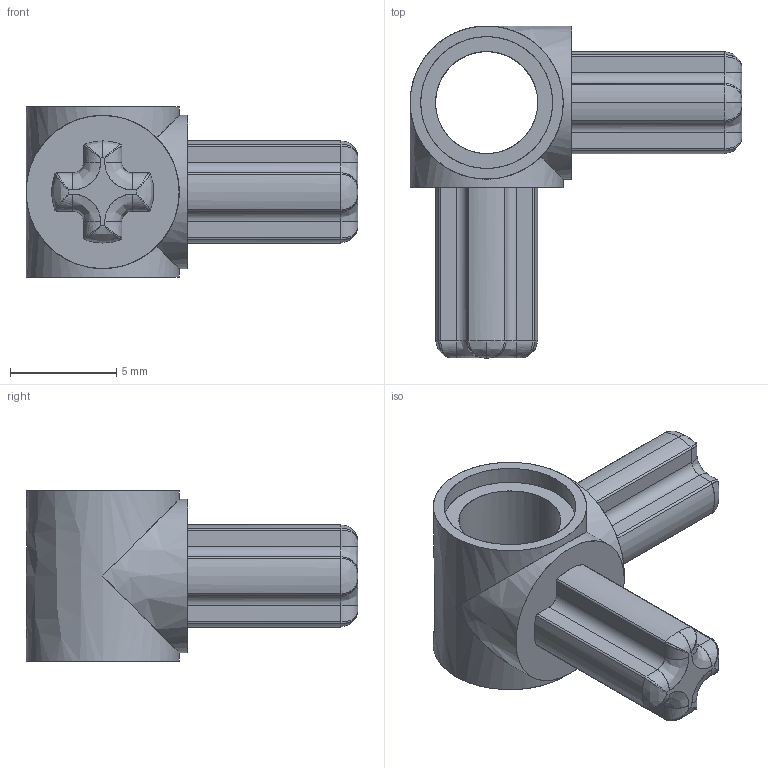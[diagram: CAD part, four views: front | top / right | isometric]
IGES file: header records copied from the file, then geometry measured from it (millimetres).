
Start section: C
Global section: file name: Gray_6005331_JCA.iges; native system: By Siemens PLM Incorporated; preprocessor: XPlus GENERIC/IGES 26.1.183; author: Author; organization: Title; date: 20250722.000151; units: millimetre
Bounding box: 15.6 x 15.6 x 8 mm (x, y, z)
Surface area: 662.6 mm2 (no closed solid volume)
Topology: 0 solids, 0 shells, 114 faces, 554 edges, 537 vertices
Faces by surface type: bspline 114
